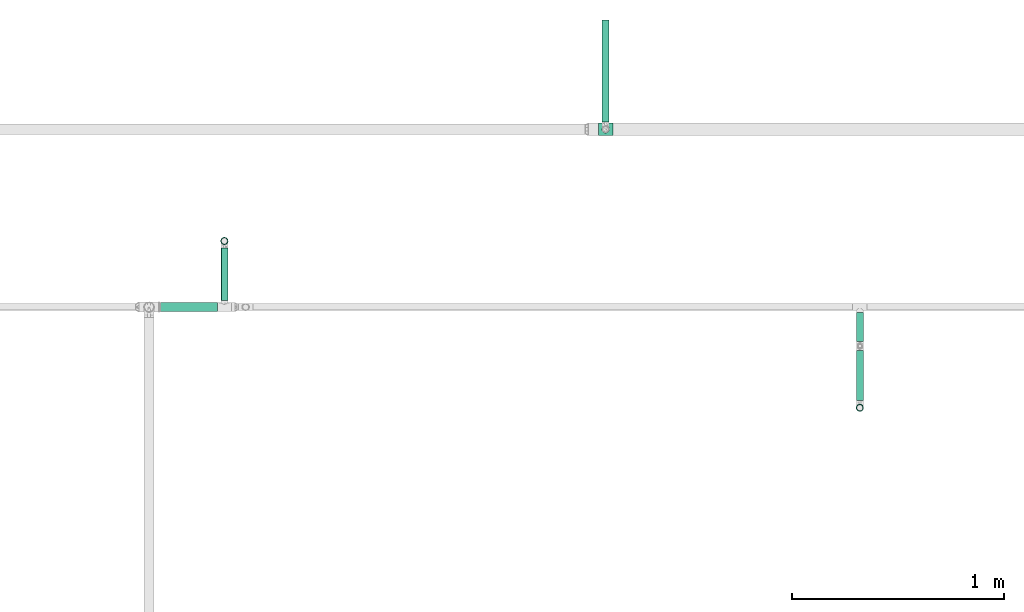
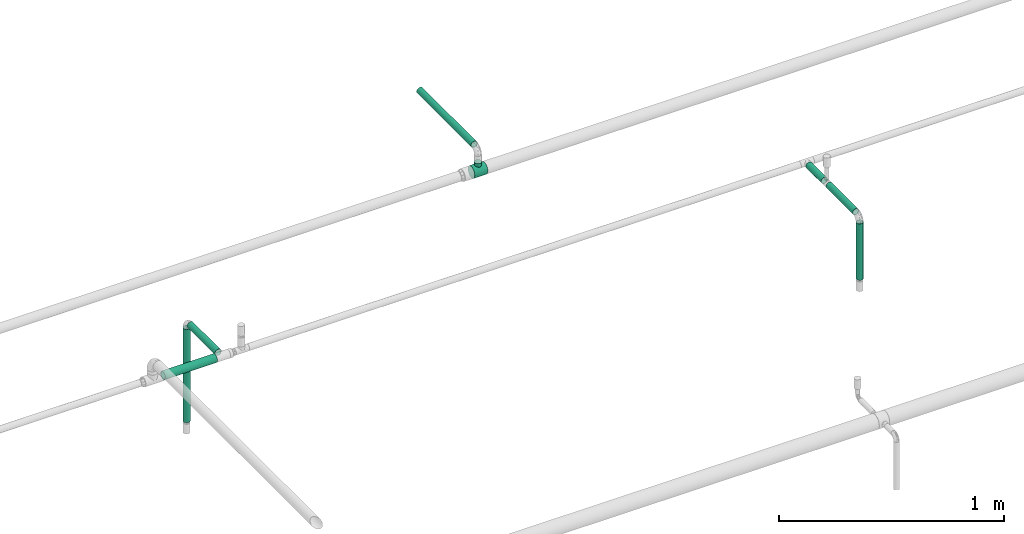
# One storey, part 14 of 51: 7 flow segments, 1 flow fitting.
"""IFC2X3 building model written with IfcOpenShell, lengths in millimetres."""

import ifcopenshell
import ifcopenshell.guid

model = None  # the IFC model being written
_history = None  # IfcOwnerHistory: only IFC2X3 demands one
_inside = {}  # id of a spatial element -> (the spatial element, [elements in it])
_under = {}  # id of a project, library or spatial element -> (it, [spatial elements below it])
_declared = {}  # id of a project -> (the project, [libraries it declares])
_typed = {}  # id of a type object -> (the type object, [elements of that type])
_made_of = {}  # id of a material, layer set ... -> (it, [elements and type objects made of it])


def new_model(schema):
    """Start an empty IFC model of exactly this schema.

    Asked for "IFC4X3", IfcOpenShell would pick the latest addendum, in which some entities
    have other attributes; the version numbers below select the first issue.
    IFC2X3 requires an IfcOwnerHistory on every rooted entity: one is made here for all.
    """
    global model, _history
    if schema == "IFC4X3":
        model = ifcopenshell.file(schema_version=(4, 3, 0, 0))
    else:
        model = ifcopenshell.file(schema=schema)
    _inside.clear()
    _under.clear()
    _declared.clear()
    _typed.clear()
    _made_of.clear()
    _history = None
    if model.schema == "IFC2X3":
        org = make("IfcOrganization", Name="unknown")
        user = make(
            "IfcPersonAndOrganization",
            ThePerson=make("IfcPerson", FamilyName="unknown"),
            TheOrganization=org,
        )
        app = make(
            "IfcApplication",
            ApplicationDeveloper=org,
            Version="unknown",
            ApplicationFullName="unknown",
            ApplicationIdentifier="unknown",
        )
        _history = make(
            "IfcOwnerHistory",
            OwningUser=user,
            OwningApplication=app,
            ChangeAction="ADDED",
            CreationDate=0,
        )
    return model


def make(cls, **values):
    """One entity of the class cls with the attributes given. An attribute that is None is left unset."""
    return model.create_entity(
        cls, **{name: value for name, value in values.items() if value is not None}
    )


def entity(cls, *values):
    """Any entity or typed value of the class cls, its attributes in the order of the schema. None: left unset."""
    e = model.create_entity(cls)
    for i, value in enumerate(values):
        if value is not None:
            e[i] = value
    return e


def rooted(cls, **values):
    """An entity with a GlobalId (a new one), such as an element, a storey or a relation."""
    return make(cls, GlobalId=ifcopenshell.guid.new(), OwnerHistory=_history, **values)


def si_unit(unit_type, name, prefix=None):
    """IfcSIUnit, for example si_unit("LENGTHUNIT", "METRE", prefix="MILLI")."""
    return make("IfcSIUnit", UnitType=unit_type, Prefix=prefix, Name=name)


def converted_unit(unit_type, name, factor, base, dimensions=None, offset=None):
    """IfcConversionBasedUnit, such as the inch: factor (a typed value) times the base unit."""
    return make(
        "IfcConversionBasedUnit"
        if offset is None
        else "IfcConversionBasedUnitWithOffset",
        ConversionOffset=offset,
        Dimensions=None
        if dimensions is None
        else entity("IfcDimensionalExponents", *dimensions),
        UnitType=unit_type,
        Name=name,
        ConversionFactor=make(
            "IfcMeasureWithUnit", ValueComponent=factor, UnitComponent=base
        ),
    )


def derived_unit(unit_type, elements):
    """IfcDerivedUnit: a product of units, each with its exponent."""
    return make(
        "IfcDerivedUnit",
        Elements=[
            make("IfcDerivedUnitElement", Unit=unit, Exponent=power)
            for unit, power in elements
        ],
        UnitType=unit_type,
    )


def assignment(units):
    """IfcUnitAssignment: the units of a project."""
    return None if units is None else make("IfcUnitAssignment", Units=units)


def point(xyz):
    """IfcCartesianPoint."""
    return None if xyz is None else make("IfcCartesianPoint", Coordinates=xyz)


def direction(xyz):
    """IfcDirection."""
    return None if xyz is None else make("IfcDirection", DirectionRatios=xyz)


def frame(location, z_axis=None, x_axis=None):
    """IfcAxis2Placement3D, a coordinate frame: its origin and axes. An axis left out is left unset."""
    return make(
        "IfcAxis2Placement3D",
        Location=point(location),
        Axis=direction(z_axis),
        RefDirection=direction(x_axis),
    )


def frame_2d(location, x_axis=None):
    """IfcAxis2Placement2D, a coordinate frame in the plane: its origin and x axis."""
    return make(
        "IfcAxis2Placement2D", Location=point(location), RefDirection=direction(x_axis)
    )


def origin_with_axes():
    """The frame at (0, 0, 0) with the z axis (0, 0, 1) and the x axis (1, 0, 0) written out."""
    return frame((0.0, 0.0, 0.0), z_axis=(0.0, 0.0, 1.0), x_axis=(1.0, 0.0, 0.0))


def origin_2d_with_axis():
    """The frame at (0, 0) in the plane with the x axis (1, 0) written out."""
    return frame_2d((0.0, 0.0), x_axis=(1.0, 0.0))


def place(relative_to, where):
    """IfcLocalPlacement: puts the frame where relative to a parent placement (None: the world)."""
    return make(
        "IfcLocalPlacement", PlacementRelTo=relative_to, RelativePlacement=where
    )


def context(
    kind, dimensions, precision=None, world=None, true_north=None, identifier=None
):
    """IfcGeometricRepresentationContext, for example the 3D "Model" context."""
    return make(
        "IfcGeometricRepresentationContext",
        ContextIdentifier=identifier,
        ContextType=kind,
        CoordinateSpaceDimension=dimensions,
        Precision=precision,
        WorldCoordinateSystem=world,
        TrueNorth=true_north,
    )


def subcontext(parent, identifier, kind, view, scale=None):
    """IfcGeometricRepresentationSubContext, for example "Body" below "Model"."""
    return make(
        "IfcGeometricRepresentationSubContext",
        ContextIdentifier=identifier,
        ContextType=kind,
        ParentContext=parent,
        TargetScale=scale,
        TargetView=view,
    )


def project(units=None, contexts=None):
    """IfcProject with its units and contexts."""
    return rooted(
        "IfcProject",
        Name="project",
        RepresentationContexts=contexts,
        UnitsInContext=assignment(units),
    )


def spatial(cls, under=None, at=None, **own):
    """A site, building, storey or space (cls), placed at a placement, below another one or the project."""
    s = rooted(cls, ObjectPlacement=at, **own)
    if under is not None:
        _under.setdefault(under.id(), (under, []))[1].append(s)
    return s


def profile(cls, at=None, kind="AREA", **sizes):
    """A parametric profile (cls). Its sizes go by their IFC names, for example OverallWidth=200.0."""
    return make(cls, ProfileType=kind, Position=at, **sizes)


def hollow_circle(**sizes):
    """IfcCircleHollowProfileDef."""
    return profile("IfcCircleHollowProfileDef", **sizes)


def extrude(swept, where, along, depth):
    """IfcExtrudedAreaSolid: the profile swept, set in the frame where, extruded along a direction by depth."""
    return make(
        "IfcExtrudedAreaSolid",
        SweptArea=swept,
        Position=where,
        ExtrudedDirection=direction(along),
        Depth=depth,
    )


def faces_of(points, faces, orient=None, outer=None):
    """IfcFace entities. A face is a list of loops; a loop is a list of indices into points, from 0.

    orient and outer hold one flag for each loop. By default every Orientation is true, the
    first loop of a face is its IfcFaceOuterBound and the others are IfcFaceBound.
    """
    made = []
    for i, loops in enumerate(faces):
        bounds = []
        for j, loop in enumerate(loops):
            is_outer = j == 0 if outer is None else outer[i][j]
            bounds.append(
                make(
                    "IfcFaceOuterBound" if is_outer else "IfcFaceBound",
                    Bound=make("IfcPolyLoop", Polygon=[points[k] for k in loop]),
                    Orientation=True if orient is None else orient[i][j],
                )
            )
        made.append(make("IfcFace", Bounds=bounds))
    return made


def open_shell(faces, orient=None, outer=None):
    """The faces of one IfcOpenShell. surface_model builds it on its shared points."""
    return ("IfcOpenShell", faces, orient, outer)


def surface_model(cls, points, shells):
    """IfcFaceBasedSurfaceModel or IfcShellBasedSurfaceModel (cls): surfaces that need not close."""
    shared = [point(p) for p in points]
    made = [make(c, CfsFaces=faces_of(shared, fs, o, b)) for c, fs, o, b in shells]
    if cls == "IfcFaceBasedSurfaceModel":
        return make(cls, FbsmFaces=made)
    return make(cls, SbsmBoundary=made)


def shape(context_of_items, identifier, shape_type, items):
    """IfcShapeRepresentation: the items that make up one representation, for example the "Body"."""
    return make(
        "IfcShapeRepresentation",
        ContextOfItems=context_of_items,
        RepresentationIdentifier=identifier,
        RepresentationType=shape_type,
        Items=items,
    )


def source(mapping_origin, context_of_items, identifier, shape_type, items):
    """IfcRepresentationMap: a shape defined once, which mapped items show again and again."""
    return make(
        "IfcRepresentationMap",
        MappingOrigin=mapping_origin,
        MappedRepresentation=shape(context_of_items, identifier, shape_type, items),
    )


def transform(
    local_origin,
    x_axis=None,
    y_axis=None,
    z_axis=None,
    scale=None,
    scale2=None,
    scale3=None,
    uniform=True,
):
    """IfcCartesianTransformationOperator3D, or its non-uniform kind. x_axis, y_axis, z_axis: its Axis1, 2, 3."""
    if uniform:
        return make(
            "IfcCartesianTransformationOperator3D",
            Axis1=direction(x_axis),
            Axis2=direction(y_axis),
            LocalOrigin=point(local_origin),
            Scale=scale,
            Axis3=direction(z_axis),
        )
    return make(
        "IfcCartesianTransformationOperator3DnonUniform",
        Axis1=direction(x_axis),
        Axis2=direction(y_axis),
        LocalOrigin=point(local_origin),
        Scale=scale,
        Axis3=direction(z_axis),
        Scale2=scale2,
        Scale3=scale3,
    )


def mapped(mapping_source, mapping_target):
    """IfcMappedItem: shows the shape of a source again, moved by a transform."""
    return make(
        "IfcMappedItem", MappingSource=mapping_source, MappingTarget=mapping_target
    )


def made_of(thing, what):
    """Note that an element or type object is made of a material, layer set ...; save() writes the relation."""
    if what is not None:
        _made_of.setdefault(what.id(), (what, []))[1].append(thing)
    return thing


def type_object(cls, material=None, **own):
    """A type object (cls), such as IfcWallType, which elements share."""
    return made_of(rooted(cls, **own), material)


def element(
    cls,
    number,
    at=None,
    inside=None,
    cuts=None,
    type_object=None,
    material=None,
    context=None,
    identifier="Body",
    shape_type=None,
    held_by="IfcProductDefinitionShape",
    body=None,
    shapes=None,
    **own,
):
    """One element of the class cls, such as IfcWall. Its Tag is "e" and its number.

    at: its placement. inside: the storey or other place that contains it. cuts: it is an
    opening in that element (IfcRelVoidsElement). A single representation is given by context,
    identifier, shape_type and body (its items); several are given by shapes. held_by: the class
    of the entity that holds the representations. save() writes the other relations.
    """
    e = rooted(cls, Tag="e%d" % number, ObjectPlacement=at, **own)
    if body is not None:
        shapes = [shape(context, identifier, shape_type, body)]
    if shapes is not None:
        e.Representation = make(held_by, Representations=shapes)
    if inside is not None:
        _inside.setdefault(inside.id(), (inside, []))[1].append(e)
    if cuts is not None:
        rooted(
            "IfcRelVoidsElement", RelatingBuildingElement=cuts, RelatedOpeningElement=e
        )
    if type_object is not None:
        _typed.setdefault(type_object.id(), (type_object, []))[1].append(e)
    return made_of(e, material)


def aggregate(whole, parts):
    """IfcRelAggregates: a whole, such as a stair, and the parts it consists of."""
    return rooted("IfcRelAggregates", RelatingObject=whole, RelatedObjects=parts)


def save(model, path):
    """Write the relations noted so far, then the file.

    IfcRelAggregates (storeys below a building ...), IfcRelContainedInSpatialStructure (elements
    in a storey), IfcRelDefinesByType, IfcRelAssociatesMaterial and IfcRelDeclares: one each for
    every whole, place, type object, material and project.
    """
    for whole, parts in _under.values():
        aggregate(whole, parts)
    for where, things in _inside.values():
        rooted(
            "IfcRelContainedInSpatialStructure",
            RelatedElements=things,
            RelatingStructure=where,
        )
    for kind, things in _typed.values():
        rooted("IfcRelDefinesByType", RelatedObjects=things, RelatingType=kind)
    for what, things in _made_of.values():
        rooted("IfcRelAssociatesMaterial", RelatedObjects=things, RelatingMaterial=what)
    for by, libraries in _declared.values():
        rooted("IfcRelDeclares", RelatingContext=by, RelatedDefinitions=libraries)
    model.write(path)


model = new_model("IFC2X3")

# Units and contexts
model_context = context("Model", 3, precision=0.01, world=frame((0.0, 4.29681676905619e-09, 0.0)), true_north=direction((4.01073788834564e-13, 1.0)))
plan_context = context("Plan", 3, precision=0.01, world=frame((0.0, 4.29681676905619e-09, 0.0)), true_north=direction((4.01073788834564e-13, 1.0)))
body_context = subcontext(model_context, "Body", "Model", "MODEL_VIEW")
ifc_project = project(units=[converted_unit("PLANEANGLEUNIT", "DEGREE", entity("IfcPositiveLengthMeasure", 0.0174532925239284), si_unit("PLANEANGLEUNIT", "RADIAN"), dimensions=[0, 0, 0, 0, 0, 0, 0]), si_unit("AREAUNIT", "SQUARE_METRE"), si_unit("LENGTHUNIT", "METRE", prefix="MILLI"), si_unit("MASSUNIT", "GRAM", prefix="KILO"), si_unit("POWERUNIT", "WATT"), si_unit("PRESSUREUNIT", "PASCAL"), si_unit("FORCEUNIT", "NEWTON", prefix="KILO"), si_unit("ELECTRICVOLTAGEUNIT", "VOLT"), si_unit("ELECTRICCURRENTUNIT", "AMPERE"), si_unit("THERMODYNAMICTEMPERATUREUNIT", "DEGREE_CELSIUS"), si_unit("TIMEUNIT", "SECOND"), si_unit("VOLUMEUNIT", "CUBIC_METRE"), derived_unit("LINEARVELOCITYUNIT", [(si_unit("LENGTHUNIT", "METRE"), 1), (si_unit("TIMEUNIT", "SECOND"), -1)]), derived_unit("VOLUMETRICFLOWRATEUNIT", [(si_unit("VOLUMEUNIT", "CUBIC_METRE"), 1), (si_unit("TIMEUNIT", "SECOND"), -1)]), derived_unit("THERMALTRANSMITTANCEUNIT", [(si_unit("POWERUNIT", "WATT"), 1), (si_unit("THERMODYNAMICTEMPERATUREUNIT", "KELVIN"), -1), (si_unit("AREAUNIT", "SQUARE_METRE"), -1)]), derived_unit("SOUNDPRESSUREUNIT", [(si_unit("PRESSUREUNIT", "PASCAL"), 1)])], contexts=[model_context, plan_context])

# Site, building, storey
site_placement = place(None, frame((0.0, -4.29681676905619e-09, 0.0), z_axis=(0.0, 0.0, 1.0), x_axis=(1.0, 0.0, 0.0)))
site = spatial("IfcSite", under=ifc_project, at=site_placement, Name="ENGM", CompositionType="ELEMENT")
building_placement = place(site_placement, frame((0.0, 4.29681676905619e-09, 0.0), z_axis=(0.0, 0.0, 1.0), x_axis=(1.0, 0.0, 0.0)))
building = spatial("IfcBuilding", under=site, at=building_placement, Name="TH", CompositionType="ELEMENT")
storey_placement = place(building_placement, frame((0.0, 0.0, 210200.0), z_axis=(0.0, 0.0, 1.0), x_axis=(1.0, 0.0, 0.0)))
storey = spatial("IfcBuildingStorey", under=building, at=storey_placement, Name="Nivå F - 0,7 m", CompositionType="ELEMENT", Elevation=210200.0)

# Flow fitting
pipe_fitting_type = type_object("IfcPipeFittingType", Name="magi_pipe_fe_tee_centric_90_NOR", PredefinedType="JUNCTION")
shared_shape_1 = source(origin_with_axes(), body_context, "Body", "SurfaceModel", [
    surface_model("IfcShellBasedSurfaceModel", [(-33.8, 15.1, -26.15397), (-33.8, 7.81634, -29.17096), (-33.8, 0.0, -30.2), (-33.8, 29.17096, -7.81634), (-33.8, 26.15397, -15.1), (-33.8, 21.35462, -21.35462), (-33.8, 30.2, 0.0), (-33.8, -30.2, 0.0), (-33.8, -15.1, -26.15397), (-33.8, -21.35462, -21.35462), (-33.8, -7.81634, -29.17096), (-33.8, -26.15397, -15.1), (-33.8, -29.17096, -7.81634), (-33.8, 26.15397, 15.1), (-33.8, 29.17096, 7.81634), (-33.8, 15.1, 26.15397), (-33.8, -21.35462, 21.35462), (-33.8, 21.35462, 21.35462), (-33.8, 7.81634, 29.17096), (-33.8, -29.17096, 7.81634), (-33.8, -26.15397, 15.1), (-33.8, -7.81634, 29.17096), (-33.8, 0.0, 30.2), (-33.8, -15.1, 26.15397), (33.8, 29.17096, -7.81634), (33.8, 0.0, -30.2), (33.8, 7.81634, -29.17096), (33.8, 21.35462, -21.35462), (33.8, 15.1, -26.15397), (33.8, 26.15397, -15.1), (33.8, -30.2, 0.0), (33.8, -7.81634, -29.17096), (33.8, -21.35462, -21.35462), (33.8, -15.1, -26.15397), (33.8, -29.17096, -7.81634), (33.8, -26.15397, -15.1), (33.8, 30.2, 0.0), (33.8, 29.17096, 7.81634), (33.8, 26.15397, 15.1), (33.8, -29.17096, 7.81634), (33.8, 15.1, 26.15397), (33.8, 7.81634, 29.17096), (33.8, 21.35462, 21.35462), (33.8, -21.35462, 21.35462), (33.8, -26.15397, 15.1), (33.8, -15.1, 26.15397), (33.8, 0.0, 30.2), (33.8, -7.81634, 29.17096), (33.8, -29.68548, 3.90817), (15.846, -29.62306, 5.87488), (16.373, -29.91153, 2.93744), (12.91037, -28.16217, 10.90561), (2.99213, -25.2068, 16.63301), (16.9, -30.2, 0.0), (33.8, -27.66246, 11.45817), (8.50854, -26.43531, 14.60187), (-8.51006, -26.43579, 14.60099), (-33.8, -27.66246, 11.45817), (-12.91447, -28.16405, 10.90075), (-15.84655, -29.62335, 5.87341), (-33.8, -29.68548, 3.90817), (-16.37327, -29.91168, 2.93671), (-16.9, -30.2, 0.0), (-2.99705, -25.20739, 16.63213), (2.99213, -25.2068, -16.63301), (-16.37327, -29.91168, -2.93671), (8.50854, -26.43531, -14.60187), (33.8, -27.66246, -11.45817), (16.373, -29.91153, -2.93744), (-33.8, -29.68548, -3.90817), (-15.84655, -29.62335, -5.87341), (15.846, -29.62306, -5.87488), (12.91037, -28.16217, -10.90561), (33.8, -29.68548, -3.90817), (-2.99705, -25.20739, -16.63213), (-8.51006, -26.43579, -14.60099), (-12.91447, -28.16405, -10.90075), (-33.8, -27.66246, -11.45817), (4.37404, -45.3, -16.32415), (-16.9, -45.3, 0.0), (0.0, -45.3, -16.9), (14.63583, -45.3, -8.45), (8.45, -45.3, -14.63583), (16.32415, -45.3, -4.37404), (11.9501, -45.3, -11.9501), (-11.9501, -45.3, -11.9501), (-8.45, -45.3, -14.63583), (-4.37404, -45.3, -16.32415), (-14.63583, -45.3, -8.45), (-16.32415, -45.3, -4.37404), (16.9, -45.3, 0.0), (8.45, -45.3, 14.63583), (16.32415, -45.3, 4.37404), (14.63583, -45.3, 8.45), (-8.45, -45.3, 14.63583), (11.9501, -45.3, 11.9501), (4.37404, -45.3, 16.32415), (-16.32415, -45.3, 4.37404), (-11.9501, -45.3, 11.9501), (-14.63583, -45.3, 8.45), (0.0, -45.3, 16.9), (-4.37404, -45.3, 16.32415), (-5.75355, -25.82159, 15.61656), (-0.00246, -25.20709, 16.63257), (5.75034, -25.82105, 15.61744), (5.75034, -25.82105, -15.61744), (-0.00246, -25.20709, -16.63257), (-5.75355, -25.82159, -15.61656)], [open_shell([[[0, 1, 2]], [[3, 0, 2]], [[0, 3, 4]], [[5, 0, 4]], [[6, 2, 7]], [[8, 9, 10]], [[9, 2, 10]], [[11, 12, 9]], [[7, 9, 12]], [[9, 7, 2]], [[6, 3, 2]], [[13, 14, 6]], [[7, 15, 13]], [[7, 16, 15]], [[17, 13, 15]], [[18, 15, 16]], [[19, 20, 7]], [[7, 20, 16]], [[21, 22, 23]], [[16, 23, 22]], [[16, 22, 18]], [[7, 13, 6]], [[24, 25, 26]], [[27, 26, 28]], [[29, 24, 26]], [[29, 26, 27]], [[25, 24, 30]], [[31, 32, 33]], [[32, 31, 34]], [[32, 34, 35]], [[34, 31, 30]], [[31, 25, 30]], [[24, 36, 30]], [[36, 37, 38]], [[39, 36, 38]], [[40, 41, 38]], [[40, 38, 42]], [[43, 38, 41]], [[39, 43, 44]], [[39, 38, 43]], [[45, 46, 47]], [[46, 45, 43]], [[41, 46, 43]], [[36, 39, 30]], [[48, 39, 49]], [[30, 48, 50]], [[39, 51, 49]], [[44, 43, 52]], [[30, 50, 53]], [[51, 54, 55]], [[52, 55, 44]], [[48, 49, 50]], [[43, 16, 52]], [[55, 54, 44]], [[56, 57, 58]], [[59, 60, 61]], [[62, 61, 7]], [[59, 58, 19]], [[56, 63, 20]], [[51, 39, 54]], [[20, 57, 56]], [[20, 63, 16]], [[58, 57, 19]], [[63, 52, 16]], [[7, 61, 60]], [[59, 19, 60]], [[43, 23, 16]], [[22, 47, 46]], [[21, 45, 47]], [[18, 46, 41]], [[38, 37, 14]], [[17, 40, 42]], [[13, 42, 38]], [[41, 40, 15]], [[6, 37, 36]], [[23, 45, 21]], [[21, 47, 22]], [[18, 22, 46]], [[41, 15, 18]], [[15, 40, 17]], [[13, 17, 42]], [[14, 13, 38]], [[37, 6, 14]], [[45, 23, 43]], [[4, 24, 29]], [[3, 36, 24]], [[5, 29, 27]], [[25, 31, 10]], [[1, 28, 26]], [[2, 26, 25]], [[27, 28, 0]], [[8, 31, 33]], [[6, 36, 3]], [[3, 24, 4]], [[5, 4, 29]], [[27, 0, 5]], [[0, 28, 1]], [[2, 1, 26]], [[10, 2, 25]], [[31, 8, 10]], [[33, 9, 8]], [[32, 35, 64]], [[7, 65, 62]], [[66, 64, 35]], [[67, 66, 35]], [[32, 64, 9]], [[53, 68, 30]], [[69, 70, 65]], [[71, 72, 34]], [[71, 73, 68]], [[66, 67, 72]], [[34, 72, 67]], [[74, 75, 11]], [[76, 12, 77]], [[11, 9, 74]], [[76, 77, 75]], [[74, 9, 64]], [[76, 70, 12]], [[71, 34, 73]], [[70, 69, 12]], [[65, 7, 69]], [[30, 68, 73]], [[77, 11, 75]], [[32, 9, 33]], [[78, 79, 80]], [[81, 78, 82]], [[81, 83, 78]], [[81, 82, 84]], [[79, 78, 83]], [[80, 85, 86]], [[86, 87, 80]], [[88, 79, 89]], [[85, 80, 88]], [[79, 88, 80]], [[83, 90, 79]], [[91, 90, 92]], [[91, 92, 93]], [[94, 79, 91]], [[91, 93, 95]], [[94, 91, 96]], [[97, 98, 99]], [[98, 97, 94]], [[94, 100, 101]], [[97, 79, 94]], [[96, 100, 94]], [[91, 79, 90]], [[97, 61, 79]], [[58, 99, 98]], [[97, 99, 59]], [[98, 94, 56]], [[61, 62, 79]], [[59, 99, 58]], [[101, 63, 102]], [[56, 58, 98]], [[100, 52, 103]], [[91, 104, 96]], [[100, 96, 52]], [[50, 49, 92]], [[50, 90, 53]], [[104, 91, 55]], [[102, 94, 101]], [[102, 56, 94]], [[100, 63, 101]], [[97, 59, 61]], [[55, 91, 95]], [[95, 51, 55]], [[52, 96, 104]], [[92, 49, 93]], [[90, 50, 92]], [[93, 49, 51]], [[93, 51, 95]], [[103, 63, 100]], [[83, 68, 90]], [[72, 81, 84]], [[83, 81, 71]], [[84, 82, 66]], [[68, 53, 90]], [[71, 81, 72]], [[78, 64, 105]], [[66, 72, 84]], [[80, 74, 106]], [[86, 107, 87]], [[65, 70, 89]], [[105, 82, 78]], [[105, 66, 82]], [[75, 86, 85]], [[83, 71, 68]], [[70, 88, 89]], [[65, 79, 62]], [[85, 88, 76]], [[80, 64, 78]], [[87, 107, 74]], [[74, 80, 87]], [[75, 107, 86]], [[75, 85, 76]], [[76, 88, 70]], [[79, 65, 89]], [[106, 64, 80]]])]),
])
flow_fitting_placement = place(storey_placement, frame((905499.91443, 487040.10129, 2819.99995999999), z_axis=(0.0, 1.0, 0.0), x_axis=(1.0, 0.0, 0.0)))
element("IfcFlowFitting", 1, at=flow_fitting_placement, inside=storey, type_object=pipe_fitting_type, Name="magi_pipe_fe_tee_centric_90_NOR", context=body_context, shape_type="MappedRepresentation", body=[
    mapped(shared_shape_1, transform((0.0, 0.0, 0.0), scale=1.0)),
])

# Flow segments
pipe_segment_type = type_object("IfcPipeSegmentType", Name="Stålrør normaltykke", PredefinedType="RIGIDSEGMENT")
shared_shape_2 = source(origin_with_axes(), body_context, "Body", "SweptSolid", [
    extrude(hollow_circle(Radius=16.9, WallThickness=2.0, at=origin_2d_with_axis()), frame((0.0, 0.0, 0.0), z_axis=(1.0, 0.0, 0.0), x_axis=(0.0, 1.0, 0.0)), (0.0, 0.0, 1.0), 482.5),
])
flow_segment_1_placement = place(storey_placement, frame((905499.91443, 487556.35302, 2938.32088000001), z_axis=(0.0, 0.0, 1.0), x_axis=(0.0, -1.0, 0.0)))
element("IfcFlowSegment", 2, at=flow_segment_1_placement, inside=storey, type_object=pipe_segment_type, Name="Stålrør normaltykke", context=body_context, shape_type="MappedRepresentation", body=[
    mapped(shared_shape_2, transform((0.0, 0.0, 0.0), scale=1.0)),
])
shared_shape_3 = source(origin_with_axes(), body_context, "Body", "SweptSolid", [
    extrude(hollow_circle(Radius=16.9, WallThickness=2.0, at=origin_2d_with_axis()), frame((0.0, 0.0, 0.0), z_axis=(1.0, 0.0, 0.0), x_axis=(0.0, 1.0, 0.0)), (0.0, 0.0, 1.0), 506.7),
])
flow_segment_2_placement = place(storey_placement, frame((903700.0, 486512.90642, 2409.35200000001), z_axis=(0.0, -1.0, 0.0), x_axis=(0.0, 0.0, 1.0)))
element("IfcFlowSegment", 3, at=flow_segment_2_placement, inside=storey, type_object=pipe_segment_type, Name="Stålrør normaltykke", context=body_context, shape_type="MappedRepresentation", body=[
    mapped(shared_shape_3, transform((0.0, 0.0, 0.0), scale=1.0)),
])
shared_shape_4 = source(origin_with_axes(), body_context, "Body", "SweptSolid", [
    extrude(hollow_circle(Radius=16.9, WallThickness=2.0, at=origin_2d_with_axis()), frame((0.0, 0.0, 0.0), z_axis=(1.0, 0.0, 0.0), x_axis=(0.0, 1.0, 0.0)), (0.0, 0.0, 1.0), 306.4),
])
flow_segment_3_placement = place(storey_placement, frame((906700.0, 485725.40642, 2609.35200000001), z_axis=(1.0, 0.0, 0.0), x_axis=(0.0, 0.0, 1.0)))
element("IfcFlowSegment", 4, at=flow_segment_3_placement, inside=storey, type_object=pipe_segment_type, Name="Stålrør normaltykke", context=body_context, shape_type="MappedRepresentation", body=[
    mapped(shared_shape_4, transform((0.0, 0.0, 0.0), scale=1.0)),
])
shared_shape_5 = source(origin_with_axes(), body_context, "Body", "SweptSolid", [
    extrude(hollow_circle(Radius=16.9, WallThickness=2.0, at=origin_2d_with_axis()), frame((0.0, 0.0, 0.0), z_axis=(1.0, 0.0, 0.0), x_axis=(0.0, 1.0, 0.0)), (0.0, 0.0, 1.0), 136.8),
])
flow_segment_4_placement = place(storey_placement, frame((906700.0, 486038.8438, 2949.57709000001), z_axis=(0.0, 4.29999999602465e-05, 0.9999999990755), x_axis=(0.0, 0.9999999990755, -4.29999999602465e-05)))
element("IfcFlowSegment", 5, at=flow_segment_4_placement, inside=storey, type_object=pipe_segment_type, Name="Stålrør normaltykke", context=body_context, shape_type="MappedRepresentation", body=[
    mapped(shared_shape_5, transform((0.0, 0.0, 0.0), scale=1.0)),
])
shared_shape_6 = source(origin_with_axes(), body_context, "Body", "SweptSolid", [
    extrude(hollow_circle(Radius=16.9, WallThickness=2.0, at=origin_2d_with_axis()), frame((0.0, 0.0, 0.0), z_axis=(1.0, 0.0, 0.0), x_axis=(0.0, 1.0, 0.0)), (0.0, 0.0, 1.0), 236.8),
])
flow_segment_5_placement = place(storey_placement, frame((906700.0, 485759.20932, 2949.59709), z_axis=(0.0, 7.49999997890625e-05, 0.9999999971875), x_axis=(0.0, 0.9999999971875, -7.49999997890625e-05)))
element("IfcFlowSegment", 6, at=flow_segment_5_placement, inside=storey, type_object=pipe_segment_type, Name="Stålrør normaltykke", context=body_context, shape_type="MappedRepresentation", body=[
    mapped(shared_shape_6, transform((0.0, 0.0, 0.0), scale=1.0)),
])
shared_shape_7 = source(origin_with_axes(), body_context, "Body", "SweptSolid", [
    extrude(hollow_circle(Radius=16.9, WallThickness=2.0, at=origin_2d_with_axis()), frame((0.0, 0.0, 0.0), z_axis=(1.0, 0.0, 0.0), x_axis=(0.0, 1.0, 0.0)), (0.0, 0.0, 1.0), 246.3),
])
flow_segment_6_placement = place(storey_placement, frame((903700.0, 486479.10642, 2949.88965), z_axis=(0.0, -0.0012980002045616, 0.99999915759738), x_axis=(0.0, -0.99999915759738, -0.0012980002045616)))
element("IfcFlowSegment", 7, at=flow_segment_6_placement, inside=storey, type_object=pipe_segment_type, Name="Stålrør normaltykke", context=body_context, shape_type="MappedRepresentation", body=[
    mapped(shared_shape_7, transform((0.0, 0.0, 0.0), scale=1.0)),
])
shared_shape_8 = source(origin_with_axes(), body_context, "Body", "SweptSolid", [
    extrude(hollow_circle(Radius=21.2, WallThickness=2.0, at=origin_2d_with_axis()), frame((0.0, 0.0, 0.0), z_axis=(1.0, 0.0, 0.0), x_axis=(0.0, 1.0, 0.0)), (0.0, 0.0, 1.0), 267.6),
])
flow_segment_7_placement = place(storey_placement, frame((903398.55403, 486201.02538, 2949.56988), z_axis=(0.0, 0.0, 1.0), x_axis=(1.0, 0.0, 0.0)))
element("IfcFlowSegment", 8, at=flow_segment_7_placement, inside=storey, type_object=pipe_segment_type, Name="Stålrør normaltykke", context=body_context, shape_type="MappedRepresentation", body=[
    mapped(shared_shape_8, transform((0.0, 0.0, 0.0), scale=1.0)),
])

save(model, "model.ifc")
